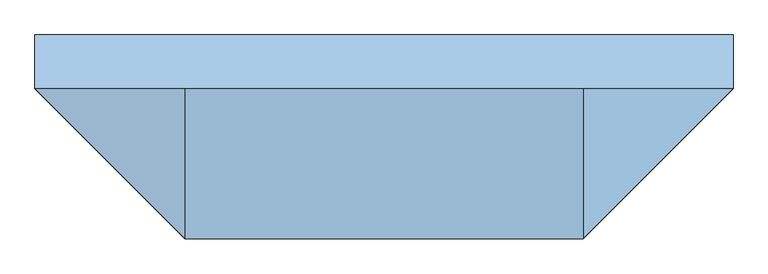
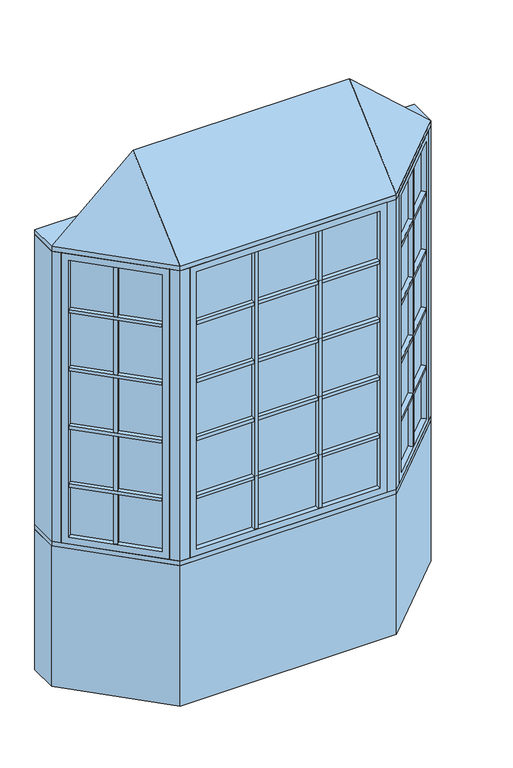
"""IFC4 building model written with IfcOpenShell, lengths in millimetres: window geometry, Pollard_Windows_Tudor Casement Bows and Bays : AML-BAY 45 AFR0516-10-500_GC."""

from ifc_helpers import new_model, si_unit, frame, origin, origin_with_axes, place, context, project, spatial, polyline, outline, extrude, faceted_brep, source, transform, mapped, element, save


def window_e2e8d029(model_context):
    return source(origin(), model_context, "Body", "SolidModel", [
        extrude(outline(polyline([(622.8614193, -437.1108753), (607.3050701, -421.5545261), (915.116171, -113.7434252), (930.6725202, -129.2997743), (622.8614193, -437.1108753)])), frame((0.0, 0.0, 1110.998), z_axis=(0.0, 0.0, 1.0), x_axis=(1.0, 0.0, 0.0)), (0.0, 0.0, 1.0), 18.0),
        extrude(outline(polyline([(603.7129677, -417.9624236), (588.1566185, -402.4060744), (895.9677194, -94.5949735), (911.5240686, -110.1513227), (603.7129677, -417.9624236)])), frame((0.0, 0.0, 1110.998), z_axis=(0.0, 0.0, 1.0), x_axis=(1.0, 0.0, 0.0)), (0.0, 0.0, 1.0), 18.0),
        extrude(outline(polyline([(622.8614193, -437.1108753), (607.3050701, -421.5545261), (915.116171, -113.7434252), (930.6725202, -129.2997743), (622.8614193, -437.1108753)])), frame((0.0, 0.0, 1430.998), z_axis=(0.0, 0.0, 1.0), x_axis=(1.0, 0.0, 0.0)), (0.0, 0.0, 1.0), 18.0),
        extrude(outline(polyline([(603.7129677, -417.9624236), (588.1566185, -402.4060744), (895.9677194, -94.5949735), (911.5240686, -110.1513227), (603.7129677, -417.9624236)])), frame((0.0, 0.0, 1430.998), z_axis=(0.0, 0.0, 1.0), x_axis=(1.0, 0.0, 0.0)), (0.0, 0.0, 1.0), 18.0),
        extrude(outline(polyline([(622.8614193, -437.1108753), (607.3050701, -421.5545261), (915.116171, -113.7434252), (930.6725202, -129.2997743), (622.8614193, -437.1108753)])), frame((0.0, 0.0, 1750.998), z_axis=(0.0, 0.0, 1.0), x_axis=(1.0, 0.0, 0.0)), (0.0, 0.0, 1.0), 18.0),
        extrude(outline(polyline([(603.7129677, -417.9624236), (588.1566185, -402.4060744), (895.9677194, -94.5949735), (911.5240686, -110.1513227), (603.7129677, -417.9624236)])), frame((0.0, 0.0, 1750.998), z_axis=(0.0, 0.0, 1.0), x_axis=(1.0, 0.0, 0.0)), (0.0, 0.0, 1.0), 18.0),
        extrude(outline(polyline([(622.8614193, -437.1108753), (607.3050701, -421.5545261), (915.116171, -113.7434252), (930.6725202, -129.2997743), (622.8614193, -437.1108753)])), frame((0.0, 0.0, 2070.998), z_axis=(0.0, 0.0, 1.0), x_axis=(1.0, 0.0, 0.0)), (0.0, 0.0, 1.0), 18.0),
        extrude(outline(polyline([(603.7129677, -417.9624236), (588.1566185, -402.4060744), (895.9677194, -94.5949735), (911.5240686, -110.1513227), (603.7129677, -417.9624236)])), frame((0.0, 0.0, 2070.998), z_axis=(0.0, 0.0, 1.0), x_axis=(1.0, 0.0, 0.0)), (0.0, 0.0, 1.0), 18.0),
        extrude(outline(polyline([(767.5745816, -261.2850146), (783.1309308, -276.8413638), (770.4030087, -289.5692858), (754.8466595, -274.0129366), (767.5745816, -261.2850146)])), frame((0.0, 0.0, 835.8628), z_axis=(0.0, 0.0, 1.0), x_axis=(1.0, 0.0, 0.0)), (0.0, 0.0, 1.0), 1528.2704),
        extrude(outline(polyline([(763.9824791, -257.6929121), (751.2545571, -270.4208342), (735.6982079, -254.864485), (748.42613, -242.1365629), (763.9824791, -257.6929121)])), frame((0.0, 0.0, 835.8628), z_axis=(0.0, 0.0, 1.0), x_axis=(1.0, 0.0, 0.0)), (0.0, 0.0, 1.0), 1528.2704),
        extrude(outline(polyline([(924.0964271, -104.763169), (598.324814, -430.5347822), (594.7327115, -426.9426797), (920.5043247, -101.1710666), (924.0964271, -104.763169)])), frame((0.0, 0.0, 823.1628), z_axis=(0.0, 0.0, 1.0), x_axis=(1.0, 0.0, 0.0)), (0.0, 0.0, 1.0), 1553.6704),
        faceted_brep([(915.116171, -113.7434252, 835.8628), (933.0766833, -131.7039374, 835.8628), (933.0766833, -131.7039374, 2364.1332), (915.116171, -113.7434252, 2364.1332), (920.5043247, -101.1710666, 823.1628), (924.0964271, -104.763169, 823.1628), (924.0964271, -104.763169, 2376.8332), (920.5043247, -101.1710666, 2376.8332), (893.5635563, -92.1908105, 835.8628), (911.5240686, -110.1513227, 835.8628), (911.5240686, -110.1513227, 2364.1332), (893.5635563, -92.1908105, 2364.1332), (958.4369265, -106.3436941, 799.998), (918.9237996, -66.8305672, 799.998), (918.9237996, -66.8305672, 2399.998), (958.4369265, -106.3436941, 2399.998), (625.2655823, -439.5150383, 2364.1332), (607.3050701, -421.5545261, 2364.1332), (598.324814, -430.5347822, 2376.8332), (594.7327115, -426.9426797, 2376.8332), (603.7129677, -417.9624236, 2364.1332), (585.7524554, -400.0019114, 2364.1332), (560.3922121, -425.3621547, 2399.998), (599.9053391, -464.8752816, 2399.998), (625.2655823, -439.5150383, 835.8628), (607.3050701, -421.5545261, 835.8628), (598.324814, -430.5347822, 823.1628), (594.7327115, -426.9426797, 823.1628), (603.7129677, -417.9624236, 835.8628), (585.7524554, -400.0019114, 835.8628), (560.3922121, -425.3621547, 799.998), (599.9053391, -464.8752816, 799.998)], [[[0, 1, 2, 3]], [[4, 5, 6, 7]], [[8, 9, 10, 11]], [[12, 13, 14, 15]], [[3, 2, 16, 17]], [[7, 6, 18, 19]], [[11, 10, 20, 21]], [[15, 14, 22, 23]], [[17, 16, 24, 25]], [[19, 18, 26, 27]], [[21, 20, 28, 29]], [[23, 22, 30, 31]], [[25, 24, 1, 0]], [[5, 26, 18, 6], [3, 17, 25, 0]], [[27, 26, 5, 4]], [[7, 19, 27, 4], [9, 28, 20, 10]], [[29, 28, 9, 8]], [[13, 30, 22, 14], [11, 21, 29, 8]], [[31, 30, 13, 12]], [[15, 23, 31, 12], [1, 24, 16, 2]]]),
        extrude(outline(polyline([(175.7952, -474.8306207), (175.7952, -496.8306207), (157.7952, -496.8306207), (157.7952, -474.8306207), (175.7952, -474.8306207)])), frame((0.0, 0.0, 835.8628), z_axis=(0.0, 0.0, 1.0), x_axis=(1.0, 0.0, 0.0)), (0.0, 0.0, 1.0), 1528.2704),
        extrude(outline(polyline([(175.7952, -469.7506207), (157.7952, -469.7506207), (157.7952, -447.7506207), (175.7952, -447.7506207), (175.7952, -469.7506207)])), frame((0.0, 0.0, 835.8628), z_axis=(0.0, 0.0, 1.0), x_axis=(1.0, 0.0, 0.0)), (0.0, 0.0, 1.0), 1528.2704),
        extrude(outline(polyline([(-157.7952, -474.8306207), (-157.7952, -496.8306207), (-175.7952, -496.8306207), (-175.7952, -474.8306207), (-157.7952, -474.8306207)])), frame((0.0, 0.0, 835.8628), z_axis=(0.0, 0.0, 1.0), x_axis=(1.0, 0.0, 0.0)), (0.0, 0.0, 1.0), 1528.2704),
        extrude(outline(polyline([(-157.7952, -469.7506207), (-175.7952, -469.7506207), (-175.7952, -447.7506207), (-157.7952, -447.7506207), (-157.7952, -469.7506207)])), frame((0.0, 0.0, 835.8628), z_axis=(0.0, 0.0, 1.0), x_axis=(1.0, 0.0, 0.0)), (0.0, 0.0, 1.0), 1528.2704),
        extrude(outline(polyline([(-478.6852, -496.8306207), (-478.6852, -474.8306207), (478.6852, -474.8306207), (478.6852, -496.8306207), (-478.6852, -496.8306207)])), frame((0.0, 0.0, 1110.998), z_axis=(0.0, 0.0, 1.0), x_axis=(1.0, 0.0, 0.0)), (0.0, 0.0, 1.0), 18.0),
        extrude(outline(polyline([(-478.6852, -469.7506207), (-478.6852, -447.7506207), (478.6852, -447.7506207), (478.6852, -469.7506207), (-478.6852, -469.7506207)])), frame((0.0, 0.0, 1110.998), z_axis=(0.0, 0.0, 1.0), x_axis=(1.0, 0.0, 0.0)), (0.0, 0.0, 1.0), 18.0),
        extrude(outline(polyline([(-478.6852, -496.8306207), (-478.6852, -474.8306207), (478.6852, -474.8306207), (478.6852, -496.8306207), (-478.6852, -496.8306207)])), frame((0.0, 0.0, 1430.998), z_axis=(0.0, 0.0, 1.0), x_axis=(1.0, 0.0, 0.0)), (0.0, 0.0, 1.0), 18.0),
        extrude(outline(polyline([(-478.6852, -469.7506207), (-478.6852, -447.7506207), (478.6852, -447.7506207), (478.6852, -469.7506207), (-478.6852, -469.7506207)])), frame((0.0, 0.0, 1430.998), z_axis=(0.0, 0.0, 1.0), x_axis=(1.0, 0.0, 0.0)), (0.0, 0.0, 1.0), 18.0),
        extrude(outline(polyline([(-478.6852, -496.8306207), (-478.6852, -474.8306207), (478.6852, -474.8306207), (478.6852, -496.8306207), (-478.6852, -496.8306207)])), frame((0.0, 0.0, 1750.998), z_axis=(0.0, 0.0, 1.0), x_axis=(1.0, 0.0, 0.0)), (0.0, 0.0, 1.0), 18.0),
        extrude(outline(polyline([(-478.6852, -469.7506207), (-478.6852, -447.7506207), (478.6852, -447.7506207), (478.6852, -469.7506207), (-478.6852, -469.7506207)])), frame((0.0, 0.0, 1750.998), z_axis=(0.0, 0.0, 1.0), x_axis=(1.0, 0.0, 0.0)), (0.0, 0.0, 1.0), 18.0),
        extrude(outline(polyline([(-930.6725202, -129.2997743), (-915.116171, -113.7434252), (-607.3050701, -421.5545261), (-622.8614193, -437.1108753), (-930.6725202, -129.2997743)])), frame((0.0, 0.0, 1110.998), z_axis=(0.0, 0.0, 1.0), x_axis=(1.0, 0.0, 0.0)), (0.0, 0.0, 1.0), 18.0),
        extrude(outline(polyline([(-911.5240686, -110.1513227), (-895.9677194, -94.5949735), (-588.1566185, -402.4060744), (-603.7129677, -417.9624236), (-911.5240686, -110.1513227)])), frame((0.0, 0.0, 1110.998), z_axis=(0.0, 0.0, 1.0), x_axis=(1.0, 0.0, 0.0)), (0.0, 0.0, 1.0), 18.0),
        extrude(outline(polyline([(-930.6725202, -129.2997743), (-915.116171, -113.7434252), (-607.3050701, -421.5545261), (-622.8614193, -437.1108753), (-930.6725202, -129.2997743)])), frame((0.0, 0.0, 1430.998), z_axis=(0.0, 0.0, 1.0), x_axis=(1.0, 0.0, 0.0)), (0.0, 0.0, 1.0), 18.0),
        extrude(outline(polyline([(-911.5240686, -110.1513227), (-895.9677194, -94.5949735), (-588.1566185, -402.4060744), (-603.7129677, -417.9624236), (-911.5240686, -110.1513227)])), frame((0.0, 0.0, 1430.998), z_axis=(0.0, 0.0, 1.0), x_axis=(1.0, 0.0, 0.0)), (0.0, 0.0, 1.0), 18.0),
        extrude(outline(polyline([(-930.6725202, -129.2997743), (-915.116171, -113.7434252), (-607.3050701, -421.5545261), (-622.8614193, -437.1108753), (-930.6725202, -129.2997743)])), frame((0.0, 0.0, 1750.998), z_axis=(0.0, 0.0, 1.0), x_axis=(1.0, 0.0, 0.0)), (0.0, 0.0, 1.0), 18.0),
        extrude(outline(polyline([(-911.5240686, -110.1513227), (-895.9677194, -94.5949735), (-588.1566185, -402.4060744), (-603.7129677, -417.9624236), (-911.5240686, -110.1513227)])), frame((0.0, 0.0, 1750.998), z_axis=(0.0, 0.0, 1.0), x_axis=(1.0, 0.0, 0.0)), (0.0, 0.0, 1.0), 18.0),
        extrude(outline(polyline([(-930.6725202, -129.2997743), (-915.116171, -113.7434252), (-607.3050701, -421.5545261), (-622.8614193, -437.1108753), (-930.6725202, -129.2997743)])), frame((0.0, 0.0, 2070.998), z_axis=(0.0, 0.0, 1.0), x_axis=(1.0, 0.0, 0.0)), (0.0, 0.0, 1.0), 18.0),
        extrude(outline(polyline([(-911.5240686, -110.1513227), (-895.9677194, -94.5949735), (-588.1566185, -402.4060744), (-603.7129677, -417.9624236), (-911.5240686, -110.1513227)])), frame((0.0, 0.0, 2070.998), z_axis=(0.0, 0.0, 1.0), x_axis=(1.0, 0.0, 0.0)), (0.0, 0.0, 1.0), 18.0),
        extrude(outline(polyline([(-478.6852, -496.8306207), (-478.6852, -474.8306207), (478.6852, -474.8306207), (478.6852, -496.8306207), (-478.6852, -496.8306207)])), frame((0.0, 0.0, 2070.998), z_axis=(0.0, 0.0, 1.0), x_axis=(1.0, 0.0, 0.0)), (0.0, 0.0, 1.0), 18.0),
        extrude(outline(polyline([(-478.6852, -469.7506207), (-478.6852, -447.7506207), (478.6852, -447.7506207), (478.6852, -469.7506207), (-478.6852, -469.7506207)])), frame((0.0, 0.0, 2070.998), z_axis=(0.0, 0.0, 1.0), x_axis=(1.0, 0.0, 0.0)), (0.0, 0.0, 1.0), 18.0),
        extrude(outline(polyline([(-754.8466595, -274.0129366), (-770.4030087, -289.5692858), (-783.1309308, -276.8413638), (-767.5745816, -261.2850146), (-754.8466595, -274.0129366)])), frame((0.0, 0.0, 835.8628), z_axis=(0.0, 0.0, 1.0), x_axis=(1.0, 0.0, 0.0)), (0.0, 0.0, 1.0), 1528.2704),
        extrude(outline(polyline([(-751.2545571, -270.4208342), (-763.9824791, -257.6929121), (-748.42613, -242.1365629), (-735.6982079, -254.864485), (-751.2545571, -270.4208342)])), frame((0.0, 0.0, 835.8628), z_axis=(0.0, 0.0, 1.0), x_axis=(1.0, 0.0, 0.0)), (0.0, 0.0, 1.0), 1528.2704),
        extrude(outline(polyline([(-598.324814, -430.5347822), (-924.0964271, -104.763169), (-920.5043247, -101.1710666), (-594.7327115, -426.9426797), (-598.324814, -430.5347822)])), frame((0.0, 0.0, 823.1628), z_axis=(0.0, 0.0, 1.0), x_axis=(1.0, 0.0, 0.0)), (0.0, 0.0, 1.0), 1553.6704),
        faceted_brep([(-603.7129677, -417.9624236, 2364.1332), (-585.7524554, -400.0019114, 2364.1332), (-585.7524554, -400.0019114, 835.8628), (-603.7129677, -417.9624236, 835.8628), (-598.324814, -430.5347822, 2376.8332), (-594.7327115, -426.9426797, 2376.8332), (-594.7327115, -426.9426797, 823.1628), (-598.324814, -430.5347822, 823.1628), (-625.2655823, -439.5150383, 2364.1332), (-607.3050701, -421.5545261, 2364.1332), (-607.3050701, -421.5545261, 835.8628), (-625.2655823, -439.5150383, 835.8628), (-560.3922121, -425.3621547, 2399.998), (-599.9053391, -464.8752816, 2399.998), (-599.9053391, -464.8752816, 799.998), (-560.3922121, -425.3621547, 799.998), (-893.5635563, -92.1908105, 835.8628), (-911.5240686, -110.1513227, 835.8628), (-920.5043247, -101.1710666, 823.1628), (-924.0964271, -104.763169, 823.1628), (-915.116171, -113.7434252, 835.8628), (-933.0766833, -131.7039374, 835.8628), (-958.4369265, -106.3436941, 799.998), (-918.9237996, -66.8305672, 799.998), (-893.5635563, -92.1908105, 2364.1332), (-911.5240686, -110.1513227, 2364.1332), (-920.5043247, -101.1710666, 2376.8332), (-924.0964271, -104.763169, 2376.8332), (-915.116171, -113.7434252, 2364.1332), (-933.0766833, -131.7039374, 2364.1332), (-958.4369265, -106.3436941, 2399.998), (-918.9237996, -66.8305672, 2399.998)], [[[0, 1, 2, 3]], [[4, 5, 6, 7]], [[8, 9, 10, 11]], [[12, 13, 14, 15]], [[3, 2, 16, 17]], [[7, 6, 18, 19]], [[11, 10, 20, 21]], [[15, 14, 22, 23]], [[17, 16, 24, 25]], [[19, 18, 26, 27]], [[21, 20, 28, 29]], [[23, 22, 30, 31]], [[15, 23, 31, 12], [1, 24, 16, 2]], [[25, 24, 1, 0]], [[5, 26, 18, 6], [3, 17, 25, 0]], [[27, 26, 5, 4]], [[7, 19, 27, 4], [9, 28, 20, 10]], [[29, 28, 9, 8]], [[13, 30, 22, 14], [11, 21, 29, 8]], [[31, 30, 13, 12]]]),
        extrude(outline(polyline([(491.3852, -474.8306207), (-491.3852, -474.8306207), (-491.3852, -469.7506207), (491.3852, -469.7506207), (491.3852, -474.8306207)])), frame((0.0, 0.0, 823.1628), z_axis=(0.0, 0.0, 1.0), x_axis=(1.0, 0.0, 0.0)), (0.0, 0.0, 1.0), 1553.6704),
        faceted_brep([(478.6852, -474.8306207, 835.8628), (478.6852, -500.2306207, 835.8628), (478.6852, -500.2306207, 2364.1332), (478.6852, -474.8306207, 2364.1332), (491.3852, -469.7506207, 823.1628), (491.3852, -474.8306207, 823.1628), (491.3852, -474.8306207, 2376.8332), (491.3852, -469.7506207, 2376.8332), (478.6852, -444.3506207, 835.8628), (478.6852, -469.7506207, 835.8628), (478.6852, -469.7506207, 2364.1332), (478.6852, -444.3506207, 2364.1332), (514.55, -500.2306207, 799.998), (514.55, -444.3506207, 799.998), (514.55, -444.3506207, 2399.998), (514.55, -500.2306207, 2399.998), (-478.6852, -500.2306207, 2364.1332), (-478.6852, -474.8306207, 2364.1332), (-491.3852, -474.8306207, 2376.8332), (-491.3852, -469.7506207, 2376.8332), (-478.6852, -469.7506207, 2364.1332), (-478.6852, -444.3506207, 2364.1332), (-514.55, -444.3506207, 2399.998), (-514.55, -500.2306207, 2399.998), (-478.6852, -500.2306207, 835.8628), (-478.6852, -474.8306207, 835.8628), (-491.3852, -474.8306207, 823.1628), (-491.3852, -469.7506207, 823.1628), (-478.6852, -469.7506207, 835.8628), (-478.6852, -444.3506207, 835.8628), (-514.55, -444.3506207, 799.998), (-514.55, -500.2306207, 799.998)], [[[0, 1, 2, 3]], [[4, 5, 6, 7]], [[8, 9, 10, 11]], [[12, 13, 14, 15]], [[3, 2, 16, 17]], [[7, 6, 18, 19]], [[11, 10, 20, 21]], [[15, 14, 22, 23]], [[17, 16, 24, 25]], [[19, 18, 26, 27]], [[21, 20, 28, 29]], [[23, 22, 30, 31]], [[15, 23, 31, 12], [1, 24, 16, 2]], [[25, 24, 1, 0]], [[5, 26, 18, 6], [3, 17, 25, 0]], [[27, 26, 5, 4]], [[7, 19, 27, 4], [9, 28, 20, 10]], [[29, 28, 9, 8]], [[13, 30, 22, 14], [11, 21, 29, 8]], [[31, 30, 13, 12]]]),
        faceted_brep([(990.0, -74.7806207, 2425.398), (564.55, -500.2306207, 2425.398), (-564.55, -500.2306207, 2425.398), (-990.0, -74.7806207, 2425.398), (-564.55, -74.7806207, 2806.398), (564.55, -74.7806207, 2806.398)], [[[0, 1, 2, 3]], [[3, 2, 4]], [[2, 1, 5, 4]], [[1, 0, 5]], [[0, 3, 4, 5]]]),
        extrude(outline(polyline([(-990.0, 77.6193793), (990.0, 77.6193793), (990.0, -74.7806207), (564.55, -500.2306207), (-564.55, -500.2306207), (-990.0, -74.7806207), (-990.0, 77.6193793)])), frame((0.0, 0.0, 2399.998), z_axis=(0.0, 0.0, 1.0), x_axis=(1.0, 0.0, 0.0)), (0.0, 0.0, 1.0), 25.4),
        extrude(outline(polyline([(-990.0, -74.7806207), (-990.0, 77.6193793), (-926.8738531, 77.6193793), (-926.8738531, -74.7806207), (-958.4369265, -106.3436941), (-990.0, -74.7806207)])), frame((0.0, 0.0, 799.998), z_axis=(0.0, 0.0, 1.0), x_axis=(1.0, 0.0, 0.0)), (0.0, 0.0, 1.0), 1600.0),
        extrude(outline(polyline([(990.0, 77.6193793), (990.0, -74.7806207), (958.4369265, -106.3436941), (926.8738531, -74.7806207), (926.8738531, 77.6193793), (990.0, 77.6193793)])), frame((0.0, 0.0, 799.998), z_axis=(0.0, 0.0, 1.0), x_axis=(1.0, 0.0, 0.0)), (0.0, 0.0, 1.0), 1600.0),
        extrude(outline(polyline([(564.55, -500.2306207), (514.55, -500.2306207), (514.55, -450.2306207), (543.8393219, -450.2306207), (564.55, -429.5199425), (599.9053391, -464.8752816), (564.55, -500.2306207)])), frame((0.0, 0.0, 799.998), z_axis=(0.0, 0.0, 1.0), x_axis=(1.0, 0.0, 0.0)), (0.0, 0.0, 1.0), 1600.0),
        extrude(outline(polyline([(-564.55, -500.2306207), (-599.9053391, -464.8752816), (-564.55, -429.5199425), (-543.8393219, -450.2306207), (-514.55, -450.2306207), (-514.55, -500.2306207), (-564.55, -500.2306207)])), frame((0.0, 0.0, 799.998), z_axis=(0.0, 0.0, 1.0), x_axis=(1.0, 0.0, 0.0)), (0.0, 0.0, 1.0), 1600.0),
        extrude(outline(polyline([(-564.55, -500.2306207), (-990.0, -74.7806207), (-990.0, 77.6193793), (-926.8738531, 77.6193793), (-501.4238531, -347.8306207), (501.4238531, -347.8306207), (926.8738531, 77.6193793), (990.0, 77.6193793), (990.0, -74.7806207), (564.55, -500.2306207), (-564.55, -500.2306207)])), frame((0.0, 0.0, 774.598), z_axis=(0.0, 0.0, 1.0), x_axis=(1.0, 0.0, 0.0)), (0.0, 0.0, 1.0), 25.4),
        extrude(outline(polyline([(-990.0, -74.7806207), (-990.0, 77.6193793), (-926.8738531, 77.6193793), (-501.4238531, -347.8306207), (501.4238531, -347.8306207), (926.8738531, 77.6193793), (990.0, 77.6193793), (990.0, -74.7806207), (564.55, -500.2306207), (-564.55, -500.2306207), (-990.0, -74.7806207)])), origin_with_axes(), (0.0, 0.0, 1.0), 774.598),
    ])


if __name__ == "__main__":
    model = new_model("IFC4")
    model_context = context("Model", 3, world=origin())
    ifc_project = project(units=[si_unit("LENGTHUNIT", "METRE", prefix="MILLI")], contexts=[model_context])
    site = spatial("IfcSite", under=ifc_project)
    building = spatial("IfcBuilding", under=site)
    placement = place(None, origin())
    window_shape = window_e2e8d029(model_context)
    element("IfcWindow", 1, ObjectType="Pollard_Windows_Tudor Casement Bows and Bays : AML-BAY 45 AFR0516-10-500_GC", at=placement, inside=building, context=model_context, shape_type="MappedRepresentation", body=[
        mapped(window_shape, transform((0.0, 0.0, 0.0), x_axis=(1.0, 0.0, 0.0), y_axis=(0.0, 1.0, 0.0), z_axis=(0.0, 0.0, 1.0))),
    ])
    save(model, "model.ifc")
